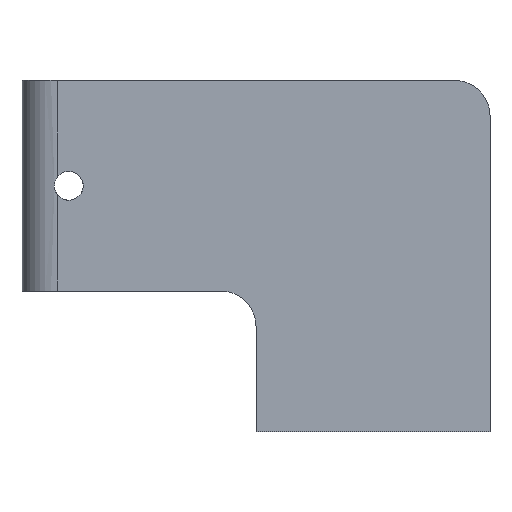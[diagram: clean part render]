
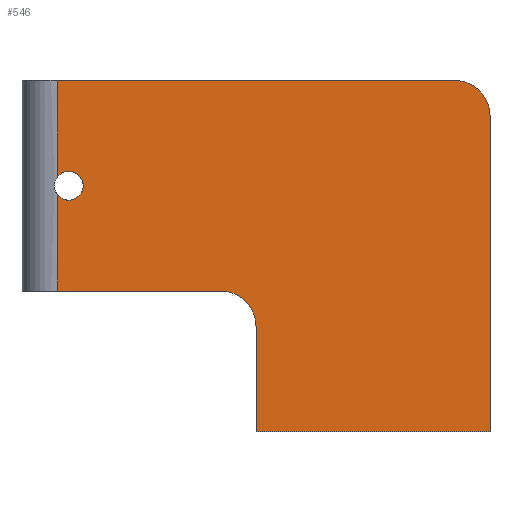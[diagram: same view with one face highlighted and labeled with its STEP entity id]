
A CAD part, left-side view. The second image highlights one B-rep face of the part: STEP entity #546.
In plain terms, the highlighted planar face has unit normal (-1, 0, 0).
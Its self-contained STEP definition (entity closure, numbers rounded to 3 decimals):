
#31=PLANE('',#599);
#46=FACE_OUTER_BOUND('',#76,.T.);
#76=EDGE_LOOP('',(#378,#379,#380,#381,#382,#383,#384,#385,#386,#387,#388));
#114=LINE('',#843,#161);
#115=LINE('',#845,#162);
#116=LINE('',#849,#163);
#117=LINE('',#851,#164);
#118=LINE('',#853,#165);
#119=LINE('',#857,#166);
#120=LINE('',#858,#167);
#161=VECTOR('',#667,10.);
#162=VECTOR('',#668,10.);
#163=VECTOR('',#671,10.);
#164=VECTOR('',#672,10.);
#165=VECTOR('',#673,10.);
#166=VECTOR('',#676,10.);
#167=VECTOR('',#677,10.);
#207=CIRCLE('',#596,1.23);
#209=CIRCLE('',#598,1.23);
#210=CIRCLE('',#600,3.);
#211=CIRCLE('',#601,3.);
#238=VERTEX_POINT('',#823);
#239=VERTEX_POINT('',#824);
#240=VERTEX_POINT('',#835);
#242=VERTEX_POINT('',#842);
#243=VERTEX_POINT('',#844);
#244=VERTEX_POINT('',#846);
#245=VERTEX_POINT('',#848);
#246=VERTEX_POINT('',#850);
#247=VERTEX_POINT('',#852);
#248=VERTEX_POINT('',#854);
#249=VERTEX_POINT('',#856);
#293=EDGE_CURVE('',#240,#238,#207,.T.);
#296=EDGE_CURVE('',#239,#240,#209,.T.);
#297=EDGE_CURVE('',#242,#238,#114,.T.);
#298=EDGE_CURVE('',#242,#243,#115,.T.);
#299=EDGE_CURVE('',#244,#243,#210,.T.);
#300=EDGE_CURVE('',#244,#245,#116,.T.);
#301=EDGE_CURVE('',#245,#246,#117,.T.);
#302=EDGE_CURVE('',#246,#247,#118,.T.);
#303=EDGE_CURVE('',#248,#247,#211,.T.);
#304=EDGE_CURVE('',#249,#248,#119,.T.);
#305=EDGE_CURVE('',#239,#249,#120,.T.);
#378=ORIENTED_EDGE('',*,*,#296,.T.);
#379=ORIENTED_EDGE('',*,*,#293,.T.);
#380=ORIENTED_EDGE('',*,*,#297,.F.);
#381=ORIENTED_EDGE('',*,*,#298,.T.);
#382=ORIENTED_EDGE('',*,*,#299,.F.);
#383=ORIENTED_EDGE('',*,*,#300,.T.);
#384=ORIENTED_EDGE('',*,*,#301,.T.);
#385=ORIENTED_EDGE('',*,*,#302,.T.);
#386=ORIENTED_EDGE('',*,*,#303,.F.);
#387=ORIENTED_EDGE('',*,*,#304,.F.);
#388=ORIENTED_EDGE('',*,*,#305,.F.);
#546=ADVANCED_FACE('',(#46),#31,.T.);
#596=AXIS2_PLACEMENT_3D('',#836,#658,#659);
#598=AXIS2_PLACEMENT_3D('',#840,#663,#664);
#599=AXIS2_PLACEMENT_3D('',#841,#665,#666);
#600=AXIS2_PLACEMENT_3D('',#847,#669,#670);
#601=AXIS2_PLACEMENT_3D('',#855,#674,#675);
#658=DIRECTION('center_axis',(1.,0.,0.));
#659=DIRECTION('ref_axis',(0.,0.,1.));
#663=DIRECTION('center_axis',(1.,0.,0.));
#664=DIRECTION('ref_axis',(0.,0.,1.));
#665=DIRECTION('center_axis',(-1.,0.,0.));
#666=DIRECTION('ref_axis',(0.,-1.,0.));
#667=DIRECTION('',(0.,0.,1.));
#668=DIRECTION('',(0.,-1.,0.));
#669=DIRECTION('center_axis',(-1.,0.,0.));
#670=DIRECTION('ref_axis',(0.,-0.707,0.707));
#671=DIRECTION('',(0.,0.,-1.));
#672=DIRECTION('',(0.,-1.,0.));
#673=DIRECTION('',(0.,0.,1.));
#674=DIRECTION('center_axis',(1.,0.,0.));
#675=DIRECTION('ref_axis',(0.,-0.707,0.707));
#676=DIRECTION('',(0.,-1.,0.));
#677=DIRECTION('',(0.,0.,1.));
#823=CARTESIAN_POINT('',(-7.,17.,20.285));
#824=CARTESIAN_POINT('',(-7.,17.,21.715));
#835=CARTESIAN_POINT('',(-7.,16.,19.771));
#836=CARTESIAN_POINT('Origin',(-7.,16.,21.));
#840=CARTESIAN_POINT('Origin',(-7.,16.,21.));
#841=CARTESIAN_POINT('Origin',(-7.,20.,0.));
#842=CARTESIAN_POINT('',(-7.,17.,12.));
#843=CARTESIAN_POINT('',(-7.,17.,0.));
#844=CARTESIAN_POINT('',(-7.,3.,12.));
#845=CARTESIAN_POINT('',(-7.,15.,12.));
#846=CARTESIAN_POINT('',(-7.,0.,9.));
#847=CARTESIAN_POINT('Origin',(-7.,3.,9.));
#848=CARTESIAN_POINT('',(-7.,0.,0.));
#849=CARTESIAN_POINT('',(-7.,0.,0.));
#850=CARTESIAN_POINT('',(-7.,-20.,0.));
#851=CARTESIAN_POINT('',(-7.,20.,0.));
#852=CARTESIAN_POINT('',(-7.,-20.,27.));
#853=CARTESIAN_POINT('',(-7.,-20.,0.));
#854=CARTESIAN_POINT('',(-7.,-17.,30.));
#855=CARTESIAN_POINT('Origin',(-7.,-17.,27.));
#856=CARTESIAN_POINT('',(-7.,17.,30.));
#857=CARTESIAN_POINT('',(-7.,20.,30.));
#858=CARTESIAN_POINT('',(-7.,17.,0.));
